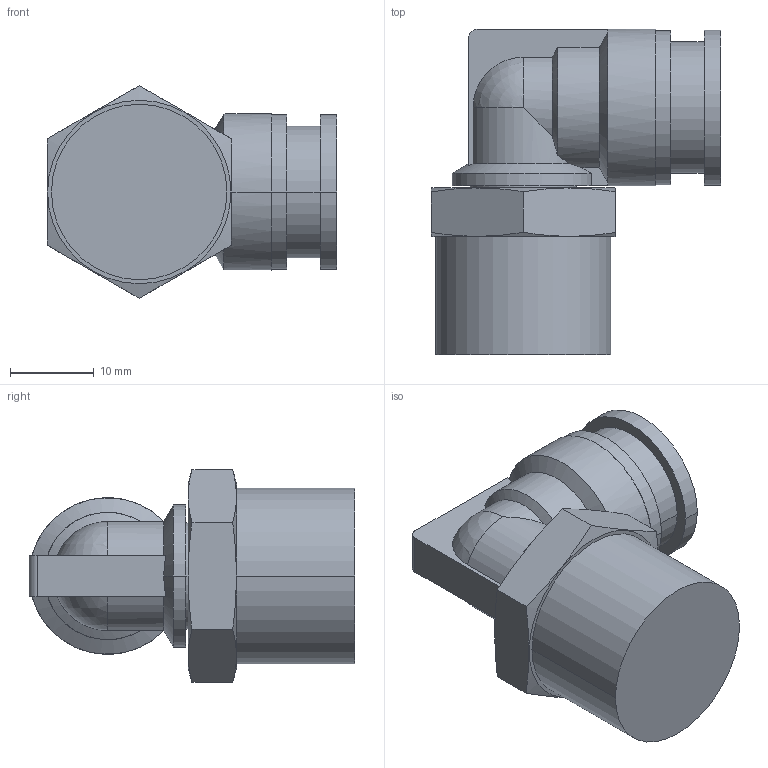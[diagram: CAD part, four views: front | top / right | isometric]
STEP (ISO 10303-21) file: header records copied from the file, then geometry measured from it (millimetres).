
FILE_DESCRIPTION( ( '' ), '1' );
FILE_NAME( 'G:/SMC狟婥/KQ2L12-04AS.stp', '2023-03-07T03:07:00', ( '' ), ( '' ), ' ', ' ', ' ' );
FILE_SCHEMA( ( 'CONFIG_CONTROL_DESIGN' ) );
Length unit declared in the file: millimetre
Products named in the file (1): 1
Bounding box: 34.6 x 38.85 x 25.4 mm (x, y, z)
Volume: 11863.8 mm3; surface area: 5108.3 mm2
Topology: 1 solids, 1 shells, 60 faces, 146 edges, 93 vertices
Faces by surface type: plane 25, cylinder 23, cone 10, sphere 2
Entity records: 1796 total; most frequent: CARTESIAN_POINT 392, DIRECTION 290, ORIENTED_EDGE 288, EDGE_CURVE 144, AXIS2_PLACEMENT_3D 119, VERTEX_POINT 93, EDGE_LOOP 67, ADVANCED_FACE 60
